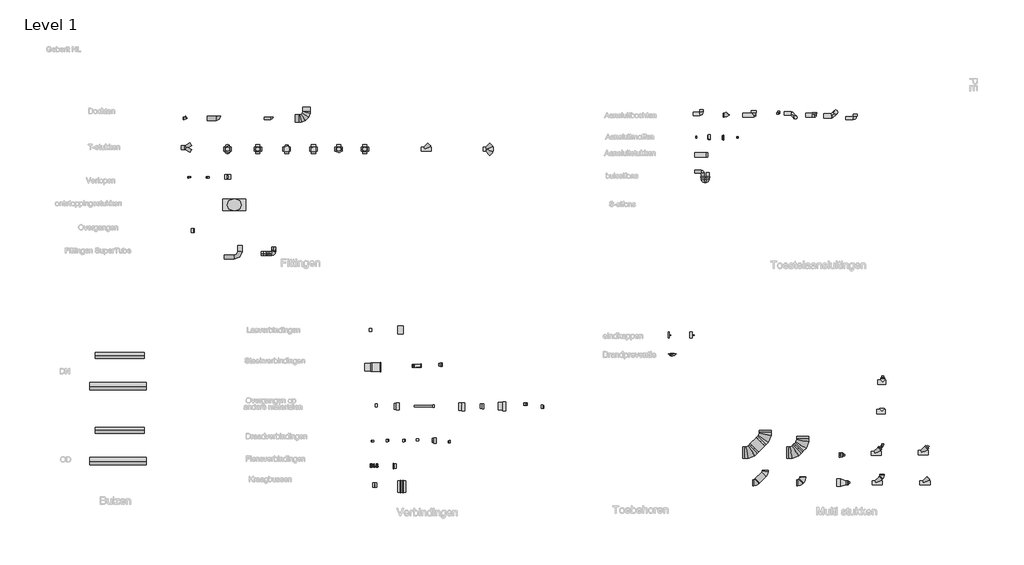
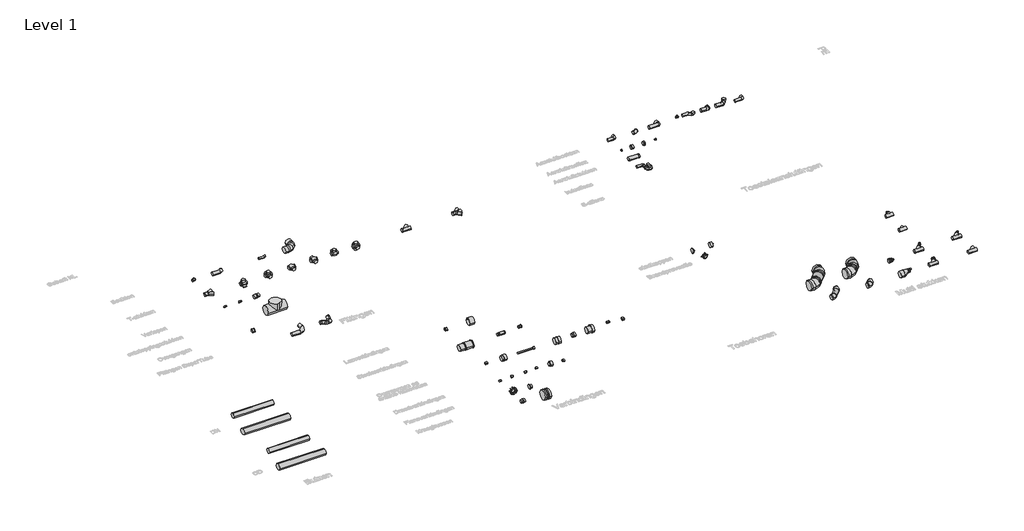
# One storey, part 1 of 9: 88 pipe fittings, 6 pipe segments, 1 covering.
"""IFC4 building model written with IfcOpenShell, lengths in millimetres."""

from ifc_helpers import new_model, si_unit, point, frame, frame_2d, origin, place, context, project, spatial, circle_curve, trimmed, segment, composite_curve, outline, extrude, transform, mapped, element, save
from components import covering_f3e6e1b0, pipe_fitting_01506ed9, pipe_fitting_891d161b, pipe_fitting_aa14bf3e, pipe_fitting_cdec6f6e, pipe_fitting_94343e28, pipe_fitting_200c67d1, pipe_fitting_8937aa88, pipe_fitting_72bd3ef1, pipe_fitting_7474d90c, pipe_fitting_4cfa4c72, pipe_fitting_c2f5c8ad, pipe_fitting_3d7ed814, pipe_fitting_5ecb3781, pipe_fitting_8499a61f, pipe_fitting_ef94fdf8, pipe_fitting_06a9d853, pipe_fitting_5e263041, pipe_fitting_2d73b07b, pipe_fitting_837e9a98, pipe_fitting_a494353a, pipe_fitting_ec2da396, pipe_fitting_92d443f0, pipe_fitting_509cdd89, pipe_fitting_5697ba1b, pipe_fitting_2152e1c3, pipe_fitting_bed2c911, pipe_fitting_a08efd00, pipe_fitting_3a0e395e, pipe_fitting_94b47f5e, pipe_fitting_18a78aad, pipe_fitting_8b9b12c6, pipe_fitting_c1c2389f, pipe_fitting_84bfb5ac, pipe_fitting_539533b1, pipe_fitting_511397ee, pipe_fitting_b586c07b, pipe_fitting_5c974b61, pipe_fitting_3ff8aea3, pipe_fitting_5e71ca5e, pipe_fitting_f7247931, pipe_fitting_40b46b3c, pipe_fitting_e77b350f, pipe_fitting_38d1e98c, pipe_fitting_d28d0940, pipe_fitting_21b6d9ae, pipe_fitting_029c0207, pipe_fitting_4753cb8a, pipe_fitting_93f2e5c1, pipe_fitting_f7c1df82, pipe_fitting_514cde16, pipe_fitting_fa588625, pipe_fitting_bb3acb3a, pipe_fitting_9f7682d1, pipe_fitting_7b2d2720, pipe_fitting_122abe25, pipe_fitting_f3f9f784, pipe_fitting_35322ad2, pipe_fitting_e7b06fe6, pipe_fitting_a508771a, pipe_fitting_67a79f44, pipe_fitting_d58c71f0, nested_2992b03f, nested_21fb20ed, nested_cf578549, nested_1662fd97, nested_d7a01211, nested_2d8ea072, nested_098f2a58, nested_b8c35c44, nested_0cd4240f, nested_5c74db91, nested_bcde11aa, nested_0e2d0414, nested_941dfa96, nested_ecac7f44, nested_b3afe5c9, nested_135c0b6a

model = new_model("IFC4")

# Units and contexts
model_context = context("Model", 3, world=origin())
ifc_project = project(units=[si_unit("LENGTHUNIT", "METRE", prefix="MILLI")], contexts=[model_context])

# Site, building, storey
site = spatial("IfcSite", under=ifc_project)
building = spatial("IfcBuilding", under=site)
storey = spatial("IfcBuildingStorey", under=building, Name="Level 1", Elevation=0.0)

# Covering
placement = place(None, origin())
covering_shape = covering_f3e6e1b0(model_context)
element("IfcCovering", 1, ObjectType="NLRS_52_SE_WPB_brandmanchet RS90 Plus EN_PRO_101862_geb : DN40-200 / d40-200 - OD", at=placement, inside=storey, context=model_context, shape_type="MappedRepresentation", body=[
    mapped(covering_shape, transform((13033.1934417, 15218.9413767, 99.896756), x_axis=(0.0, 0.03482583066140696, -0.9993933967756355), y_axis=(1.0, 0.0, 0.0), z_axis=(0.0, -0.9993933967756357, -0.034825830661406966))),
])

# Pipe fittings
pipe_fitting_shape = pipe_fitting_01506ed9(model_context)
element("IfcPipeFitting", 2, ObjectType="NLRS_52_PIF_UN_PE BackFlip bocht_geb : DN100 / ø110", at=placement, inside=storey, context=model_context, shape_type="MappedRepresentation", body=[
    mapped(pipe_fitting_shape, transform((2411.3752995, 17895.2036212, 0.0), x_axis=(1.0, 0.0, 0.0), y_axis=(0.0, 1.0, 0.0), z_axis=(0.0, 0.0, 1.0))),
])
pipe_fitting_2_shape = pipe_fitting_891d161b(model_context)
element("IfcPipeFitting", 3, ObjectType="NLRS_52_PIF_UN_PE bocht 90° met lang been en kleine radius_geb : DN90-100 / ø90-110", at=placement, inside=storey, context=model_context, shape_type="MappedRepresentation", body=[
    mapped(pipe_fitting_2_shape, transform((942.3752995, 21495.5424865, 0.0), x_axis=(1.0, 0.0, 0.0), y_axis=(0.0, 1.0, 0.0), z_axis=(0.0, 0.0, 1.0))),
])
pipe_fitting_3_shape = pipe_fitting_aa14bf3e(model_context)
element("IfcPipeFitting", 4, ObjectType="NLRS_52_PIF_UN_PE BottomTurn bocht_geb : DN100 / ø110", at=placement, inside=storey, context=model_context, shape_type="MappedRepresentation", body=[
    mapped(pipe_fitting_3_shape, transform((1511.3752995, 17795.2036212, 0.0), x_axis=(1.0, 0.0, 0.0), y_axis=(0.0, 1.0, 0.0), z_axis=(0.0, 0.0, 1.0))),
])
pipe_fitting_4_shape = pipe_fitting_cdec6f6e(model_context)
element("IfcPipeFitting", 5, ObjectType="NLRS_52_PIF_UN_PE broek T-stuk 2 x 30°_geb : DN40-100 Ø40-110", at=placement, inside=storey, context=model_context, shape_type="MappedRepresentation", body=[
    mapped(pipe_fitting_4_shape, transform((42.047866, 20720.9447432, 0.0), x_axis=(1.0, 0.0, 0.0), y_axis=(0.0, 1.0, 0.0), z_axis=(0.0, 0.0, 1.0))),
])
pipe_fitting_5_shape = pipe_fitting_94343e28(model_context)
element("IfcPipeFitting", 6, ObjectType="NLRS_52_PIF_UN_PE kogel T-stuk 88,5° drievoudig, aansluitingen 135° sprong_geb : DN60-125 / ø63-125", at=placement, inside=storey, context=model_context, shape_type="MappedRepresentation", body=[
    mapped(pipe_fitting_5_shape, transform((1179.5557018, 20673.2055651, 0.0), x_axis=(1.0, 0.0, 0.0), y_axis=(0.0, 1.0, 0.0), z_axis=(0.0, 0.0, 1.0))),
])
pipe_fitting_6_shape = pipe_fitting_200c67d1(model_context)
element("IfcPipeFitting", 7, ObjectType="NLRS_52_PIF_UN_PE kogel T-stuk 88,5° drievoudig, aansluitingen 90° sprong_geb : DN60-150 / ø63-160", at=placement, inside=storey, context=model_context, shape_type="MappedRepresentation", body=[
    mapped(pipe_fitting_6_shape, transform((1989.8352561, 20673.2055651, 0.0), x_axis=(1.0, 0.0, 0.0), y_axis=(0.0, 1.0, 0.0), z_axis=(0.0, 0.0, 1.0))),
])
pipe_fitting_7_shape = pipe_fitting_8937aa88(model_context)
element("IfcPipeFitting", 8, ObjectType="NLRS_52_PIF_UN_PE kogel T-stuk 88,5° dubbel, aansluitingen 135° sprong_geb : DN60-150 / ø63-160", at=placement, inside=storey, context=model_context, shape_type="MappedRepresentation", body=[
    mapped(pipe_fitting_7_shape, transform((2753.3679131, 20673.2055651, 0.0), x_axis=(1.0, 0.0, 0.0), y_axis=(0.0, 1.0, 0.0), z_axis=(0.0, 0.0, 1.0))),
])
pipe_fitting_8_shape = pipe_fitting_72bd3ef1(model_context)
element("IfcPipeFitting", 9, ObjectType="NLRS_52_PIF_UN_PE kogel T-stuk 88,5° dubbel, aansluitingen 180° sprong_geb : DN60-150 / ø63-160", at=placement, inside=storey, context=model_context, shape_type="MappedRepresentation", body=[
    mapped(pipe_fitting_8_shape, transform((3470.1536726, 20673.2055651, 0.0), x_axis=(1.0, 0.0, 0.0), y_axis=(0.0, 1.0, 0.0), z_axis=(0.0, 0.0, 1.0))),
])
pipe_fitting_9_shape = pipe_fitting_7474d90c(model_context)
element("IfcPipeFitting", 10, ObjectType="NLRS_52_PIF_UN_PE kogel T-stuk 88,5° dubbel, aansluitingen 90° sprong_geb : DN60-150 / ø63-160", at=placement, inside=storey, context=model_context, shape_type="MappedRepresentation", body=[
    mapped(pipe_fitting_9_shape, transform((4140.1925348, 20673.2055651, 0.0), x_axis=(1.0, 0.0, 0.0), y_axis=(0.0, 1.0, 0.0), z_axis=(0.0, 0.0, 1.0))),
])
pipe_fitting_10_shape = pipe_fitting_4cfa4c72(model_context)
element("IfcPipeFitting", 11, ObjectType="NLRS_52_PIF_UN_PE kogel T-stuk 88,5° viervoudig, aansluitingen 90° sprong_geb : DN60-150 / ø63-160", at=placement, inside=storey, context=model_context, shape_type="MappedRepresentation", body=[
    mapped(pipe_fitting_10_shape, transform((4841.3959953, 20673.2055651, 0.0), x_axis=(1.0, 0.0, 0.0), y_axis=(0.0, 1.0, 0.0), z_axis=(0.0, 0.0, 1.0))),
])
pipe_fitting_11_shape = pipe_fitting_c2f5c8ad(model_context)
element("IfcPipeFitting", 12, ObjectType="NLRS_52_PIF_UN_PE tweevoudig T-stuk 45°_geb : DN40-100 / ø40-110", at=placement, inside=storey, context=model_context, shape_type="MappedRepresentation", body=[
    mapped(pipe_fitting_11_shape, transform((8082.5142125, 20673.2055651, 0.0), x_axis=(1.0, 0.0, 0.0), y_axis=(0.0, 1.0, 0.0), z_axis=(0.0, 0.0, 1.0))),
])
pipe_fitting_12_shape = pipe_fitting_3d7ed814(model_context)
element("IfcPipeFitting", 13, ObjectType="NLRS_52_PIF_UN_PE ontstoppingsstuk 90° met ovale service-opening_geb : DN100-300 / ø110-315", at=placement, inside=storey, context=model_context, shape_type="MappedRepresentation", body=[
    mapped(pipe_fitting_12_shape, transform((1359.7334912, 19189.3791747, 0.0), x_axis=(1.0, 0.0, 0.0), y_axis=(0.0, 1.0, 0.0), z_axis=(0.0, 0.0, 1.0))),
])
pipe_fitting_13_shape = pipe_fitting_5ecb3781(model_context)
element("IfcPipeFitting", 14, ObjectType="NLRS_52_PIF_UN_PE overgangsmof_geb : DN90-100 / ø90-110", at=placement, inside=storey, context=model_context, shape_type="MappedRepresentation", body=[
    mapped(pipe_fitting_13_shape, transform((248.7155638, 18508.4327031, 0.0), x_axis=(1.0, 0.0, 0.0), y_axis=(0.0, 1.0, 0.0), z_axis=(0.0, 0.0, 1.0))),
])
pipe_fitting_14_shape = pipe_fitting_8499a61f(model_context)
element("IfcPipeFitting", 15, ObjectType="NLRS_52_PIF_UN_PE elektrolasmof_geb : DN40-150 / ø40-160", at=placement, inside=storey, context=model_context, shape_type="MappedRepresentation", body=[
    mapped(pipe_fitting_14_shape, transform((4990.9103576, 15854.1209089, 0.0), x_axis=(1.0, 0.0, 0.0), y_axis=(0.0, 1.0, 0.0), z_axis=(0.0, 0.0, 1.0))),
])
pipe_fitting_15_shape = pipe_fitting_ef94fdf8(model_context)
element("IfcPipeFitting", 16, ObjectType="NLRS_52_PIF_UN_PE thermomof_geb : DN200-300 / ø200-315", at=placement, inside=storey, context=model_context, shape_type="MappedRepresentation", body=[
    mapped(pipe_fitting_15_shape, transform((5785.6076128, 15854.1209089, 0.0), x_axis=(1.0, 0.0, 0.0), y_axis=(0.0, 1.0, 0.0), z_axis=(0.0, 0.0, 1.0))),
])
pipe_fitting_16_shape = pipe_fitting_06a9d853(model_context)
element("IfcPipeFitting", 17, ObjectType="NLRS_52_PIF_UN_PE steekmof met lippendichting_geb : DN40-150 / ø40-160", at=placement, inside=storey, context=model_context, shape_type="MappedRepresentation", body=[
    mapped(pipe_fitting_16_shape, transform((6856.0340088, 14927.5005981, 0.0), x_axis=(1.0, 0.0, 0.0), y_axis=(0.0, 1.0, 0.0), z_axis=(0.0, 0.0, 1.0))),
])
pipe_fitting_17_shape = pipe_fitting_5e263041(model_context)
element("IfcPipeFitting", 18, ObjectType="NLRS_52_PIF_UN_PE overgang_geb : DN100-150-148 / ø110-160-148", at=placement, inside=storey, context=model_context, shape_type="MappedRepresentation", body=[
    mapped(pipe_fitting_17_shape, transform((5669.5609406, 13820.1875572, 0.0), x_axis=(1.0, 0.0, 0.0), y_axis=(0.0, 1.0, 0.0), z_axis=(0.0, 0.0, 1.0))),
])
pipe_fitting_18_shape = pipe_fitting_2d73b07b(model_context)
element("IfcPipeFitting", 19, ObjectType="NLRS_52_PIF_UN_PE overgang met krimpmof_geb : DN48-300 / ø48-315", at=placement, inside=storey, context=model_context, shape_type="MappedRepresentation", body=[
    mapped(pipe_fitting_18_shape, transform((6422.1859881, 13820.1875572, 0.0), x_axis=(1.0, 0.0, 0.0), y_axis=(0.0, 1.0, 0.0), z_axis=(0.0, 0.0, 1.0))),
])
pipe_fitting_19_shape = pipe_fitting_837e9a98(model_context)
element("IfcPipeFitting", 20, ObjectType="NLRS_52_PIF_UN_PE overgang op gietijzer_geb : DN200-300-326 / ø200-315-326", at=placement, inside=storey, context=model_context, shape_type="MappedRepresentation", body=[
    mapped(pipe_fitting_19_shape, transform((7425.6860515, 13802.2679132, 0.0), x_axis=(1.0, 0.0, 0.0), y_axis=(0.0, 1.0, 0.0), z_axis=(0.0, 0.0, 1.0))),
])
pipe_fitting_20_shape = pipe_fitting_a494353a(model_context)
element("IfcPipeFitting", 21, ObjectType="NLRS_52_PIF_UN_PE overgang op gietijzer, met steunring_geb : DN125-135 / ø125-135", at=placement, inside=storey, context=model_context, shape_type="MappedRepresentation", body=[
    mapped(pipe_fitting_20_shape, transform((7963.2753712, 13820.1875572, 0.0), x_axis=(1.0, 0.0, 0.0), y_axis=(0.0, 1.0, 0.0), z_axis=(0.0, 0.0, 1.0))),
])
pipe_fitting_21_shape = pipe_fitting_ec2da396(model_context)
element("IfcPipeFitting", 22, ObjectType="NLRS_52_PIF_UN_PE overgang op lood_geb : DN50-54 / ø50-54", at=placement, inside=storey, context=model_context, shape_type="MappedRepresentation", body=[
    mapped(pipe_fitting_21_shape, transform((9128.0522305, 13873.9464891, 0.0), x_axis=(1.0, 0.0, 0.0), y_axis=(0.0, 1.0, 0.0), z_axis=(0.0, 0.0, 1.0))),
])
pipe_fitting_22_shape = pipe_fitting_92d443f0(model_context)
element("IfcPipeFitting", 23, ObjectType="NLRS_52_PIF_UN_PE overgangsmanchet op gietijzer, met steunring_geb : DN50-125 / ø50-125", at=placement, inside=storey, context=model_context, shape_type="MappedRepresentation", body=[
    mapped(pipe_fitting_22_shape, transform((9558.1236862, 13802.2679132, 0.0), x_axis=(1.0, 0.0, 0.0), y_axis=(0.0, 1.0, 0.0), z_axis=(0.0, 0.0, 1.0))),
])
pipe_fitting_23_shape = pipe_fitting_509cdd89(model_context)
element("IfcPipeFitting", 24, ObjectType="NLRS_52_PIF_UN_PE overgang met binnendraad_geb : DN40-70-Rp2½\" / ø40-75-Rp2½\"", at=placement, inside=storey, context=model_context, shape_type="MappedRepresentation", body=[
    mapped(pipe_fitting_23_shape, transform((5042.3734009, 12888.3660697, 0.0), x_axis=(1.0, 0.0, 0.0), y_axis=(0.0, 1.0, 0.0), z_axis=(0.0, 0.0, 1.0))),
])
pipe_fitting_24_shape = pipe_fitting_5697ba1b(model_context)
element("IfcPipeFitting", 25, ObjectType="NLRS_52_PIF_UN_PE overgang met binnendraad en klemkoppeling_geb : DN56-Rp2\" / ø56-Rp2\"", at=placement, inside=storey, context=model_context, shape_type="MappedRepresentation", body=[
    mapped(pipe_fitting_24_shape, transform((5454.5252127, 12906.2857137, 0.0), x_axis=(1.0, 0.0, 0.0), y_axis=(0.0, 1.0, 0.0), z_axis=(0.0, 0.0, 1.0))),
])
pipe_fitting_25_shape = pipe_fitting_2152e1c3(model_context)
element("IfcPipeFitting", 26, ObjectType="NLRS_52_PIF_UN_PE overgang met buitendraad en klemkoppeling_geb : DN50-56-R2\" / ø50-56-R2\"", at=placement, inside=storey, context=model_context, shape_type="MappedRepresentation", body=[
    mapped(pipe_fitting_25_shape, transform((5884.5966684, 12906.2857137, 0.0), x_axis=(1.0, 0.0, 0.0), y_axis=(0.0, 1.0, 0.0), z_axis=(0.0, 0.0, 1.0))),
])
pipe_fitting_26_shape = pipe_fitting_bed2c911(model_context)
element("IfcPipeFitting", 27, ObjectType="NLRS_52_PIF_UN_PE overgangsstuk met buitendraad_geb : DN50-70-R2½\" / ø50-75-R2½\"", at=placement, inside=storey, context=model_context, shape_type="MappedRepresentation", body=[
    mapped(pipe_fitting_26_shape, transform((6242.9895482, 12924.2053577, 0.0), x_axis=(1.0, 0.0, 0.0), y_axis=(0.0, 1.0, 0.0), z_axis=(0.0, 0.0, 1.0))),
])
pipe_fitting_27_shape = pipe_fitting_a08efd00(model_context)
element("IfcPipeFitting", 28, ObjectType="NLRS_52_PIF_UN_PE schroefdraadstuk met afsluitkap_geb : DN30-100 / ø32-110", at=placement, inside=storey, context=model_context, shape_type="MappedRepresentation", body=[
    mapped(pipe_fitting_27_shape, transform((6673.0610039, 12906.2857137, 0.0), x_axis=(1.0, 0.0, 0.0), y_axis=(0.0, 1.0, 0.0), z_axis=(0.0, 0.0, 1.0))),
])
pipe_fitting_28_shape = pipe_fitting_3a0e395e(model_context)
element("IfcPipeFitting", 29, ObjectType="NLRS_52_PIF_UN_PE schroefdraadstuk met klemkoppeling_geb : DN30-100 / ø32-110", at=placement, inside=storey, context=model_context, shape_type="MappedRepresentation", body=[
    mapped(pipe_fitting_28_shape, transform((7085.2128157, 12870.4464257, 0.0), x_axis=(1.0, 0.0, 0.0), y_axis=(0.0, 1.0, 0.0), z_axis=(0.0, 0.0, 1.0))),
])
pipe_fitting_29_shape = pipe_fitting_94b47f5e(model_context)
element("IfcPipeFitting", 30, ObjectType="NLRS_52_PIF_UN_PE set flens_geb : DN50-300 / ø50-315", at=placement, inside=storey, context=model_context, shape_type="MappedRepresentation", body=[
    mapped(pipe_fitting_29_shape, transform((5087.1917562, 12218.7765585, 40.5704963), x_axis=(1.0, 0.0, 0.0), y_axis=(0.0, 0.058908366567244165, 0.9982633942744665), z_axis=(0.0, -0.9982633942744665, 0.058908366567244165))),
])
pipe_fitting_30_shape = pipe_fitting_18a78aad(model_context)
element("IfcPipeFitting", 31, ObjectType="NLRS_52_PIF_UN_PE voorlaskraag_geb : DN50-300 / ø50-315", at=placement, inside=storey, context=model_context, shape_type="MappedRepresentation", body=[
    mapped(pipe_fitting_30_shape, transform((5601.0538751, 12222.5407082, 0.0), x_axis=(1.0, 0.0, 0.0), y_axis=(0.0, 1.0, 0.0), z_axis=(0.0, 0.0, 1.0))),
])
pipe_fitting_31_shape = pipe_fitting_8b9b12c6(model_context)
element("IfcPipeFitting", 32, ObjectType="NLRS_52_PIF_UN_PE kraagbus_geb : DN30-100 / ø32-110", at=placement, inside=storey, context=model_context, shape_type="MappedRepresentation", body=[
    mapped(pipe_fitting_31_shape, transform((5102.1369897, 11714.7145927, 0.0), x_axis=(1.0, 0.0, 0.0), y_axis=(0.0, 1.0, 0.0), z_axis=(0.0, 0.0, 1.0))),
])
pipe_fitting_32_shape = pipe_fitting_c1c2389f(model_context)
element("IfcPipeFitting", 33, ObjectType="NLRS_52_PIF_UN_aansluitbocht 90° voor wand-wc_geb : DN90-100 / ø90-110", at=placement, inside=storey, context=model_context, shape_type="MappedRepresentation", body=[
    mapped(pipe_fitting_32_shape, transform((13813.4360401, 21615.4855156, 0.0), x_axis=(1.0, 0.0, 0.0), y_axis=(0.0, 1.0, 0.0), z_axis=(0.0, 0.0, 1.0))),
])
pipe_fitting_33_shape = pipe_fitting_84bfb5ac(model_context)
element("IfcPipeFitting", 34, ObjectType="NLRS_52_PIF_UN_PE aansluitbocht 45° met aansluitsteekmof, voor wand-wc_geb : DN90-100 / ø90-110", at=placement, inside=storey, context=model_context, shape_type="MappedRepresentation", body=[
    mapped(pipe_fitting_33_shape, transform((14471.6089961, 21586.2232082, 0.0), x_axis=(1.0, 0.0, 0.0), y_axis=(0.0, 1.0, 0.0), z_axis=(0.0, 0.0, 1.0))),
])
pipe_fitting_34_shape = pipe_fitting_539533b1(model_context)
element("IfcPipeFitting", 35, ObjectType="NLRS_52_PIF_UN_PE aansluitbocht 88,5° voor staande wc_geb : DN90-100 / ø90-110", at=placement, inside=storey, context=model_context, shape_type="MappedRepresentation", body=[
    mapped(pipe_fitting_34_shape, transform((15206.2696006, 21586.2232082, 0.0), x_axis=(1.0, 0.0, 0.0), y_axis=(0.0, 1.0, 0.0), z_axis=(0.0, 0.0, 1.0))),
])
pipe_fitting_35_shape = pipe_fitting_511397ee(model_context)
element("IfcPipeFitting", 36, ObjectType="NLRS_52_PIF_UN_PE aansluitbocht 90° voor manchet_geb : DN40-56-58 / ø40-56-58", at=placement, inside=storey, context=model_context, shape_type="MappedRepresentation", body=[
    mapped(pipe_fitting_35_shape, transform((15869.8340175, 21633.6206665, 0.0), x_axis=(1.0, 0.0, 0.0), y_axis=(0.0, 1.0, 0.0), z_axis=(0.0, 0.0, 1.0))),
])
pipe_fitting_36_shape = pipe_fitting_b586c07b(model_context)
element("IfcPipeFitting", 37, ObjectType="NLRS_52_PIF_UN_PE aansluitbocht 90° voor wand-wc, links gebogen, met korte voorsprong_geb : DN90-100 / ø90-110", at=placement, inside=storey, context=model_context, shape_type="MappedRepresentation", body=[
    mapped(pipe_fitting_36_shape, transform((16308.1457556, 21624.9530386, 0.0), x_axis=(1.0, 0.0, 0.0), y_axis=(0.0, 1.0, 0.0), z_axis=(0.0, 0.0, 1.0))),
])
pipe_fitting_37_shape = pipe_fitting_5c974b61(model_context)
element("IfcPipeFitting", 38, ObjectType="NLRS_52_PIF_UN_PE aansluitbocht 90° voor wand-wc, met korte voorsprong_geb : DN90-100 / ø90-110", at=placement, inside=storey, context=model_context, shape_type="MappedRepresentation", body=[
    mapped(pipe_fitting_37_shape, transform((16819.4580916, 21578.470099, 0.0), x_axis=(1.0, 0.0, 0.0), y_axis=(0.0, 1.0, 0.0), z_axis=(0.0, 0.0, 1.0))),
])
pipe_fitting_38_shape = pipe_fitting_3ff8aea3(model_context)
element("IfcPipeFitting", 39, ObjectType="NLRS_52_PIF_UN_PE aansluitbocht 90° voor wand-wc, rechts gebogen, met korte voorsprong_geb : DN90-100 / ø90-110", at=placement, inside=storey, context=model_context, shape_type="MappedRepresentation", body=[
    mapped(pipe_fitting_38_shape, transform((17385.0005238, 21562.9757857, 0.0), x_axis=(1.0, 0.0, 0.0), y_axis=(0.0, 1.0, 0.0), z_axis=(0.0, 0.0, 1.0))),
])
pipe_fitting_39_shape = pipe_fitting_5e71ca5e(model_context)
element("IfcPipeFitting", 40, ObjectType="NLRS_52_PIF_UN_PE aansluitmof_geb : DN40-60 / ø40-63", at=placement, inside=storey, context=model_context, shape_type="MappedRepresentation", body=[
    mapped(pipe_fitting_39_shape, transform((13663.333794, 20996.1648535, 0.0), x_axis=(1.0, 0.0, 0.0), y_axis=(0.0, 1.0, 0.0), z_axis=(0.0, 0.0, 1.0))),
])
pipe_fitting_40_shape = pipe_fitting_f7247931(model_context)
element("IfcPipeFitting", 41, ObjectType="NLRS_52_PIF_UN_PE aansluitmof voor staande wc_geb : DN90-100 / ø90-110", at=placement, inside=storey, context=model_context, shape_type="MappedRepresentation", body=[
    mapped(pipe_fitting_40_shape, transform((13992.4523745, 20995.0398316, 0.0), x_axis=(1.0, 0.0, 0.0), y_axis=(0.0, 1.0, 0.0), z_axis=(0.0, 0.0, 1.0))),
])
pipe_fitting_41_shape = pipe_fitting_40b46b3c(model_context)
element("IfcPipeFitting", 42, ObjectType="NLRS_52_PIF_UN_PE aansluitsteekmof met lipafdichting, voor wand-wc_geb : DN90-100 / ø90-110", at=placement, inside=storey, context=model_context, shape_type="MappedRepresentation", body=[
    mapped(pipe_fitting_41_shape, transform((14362.9685599, 20981.5665158, 0.0), x_axis=(1.0, 0.0, 0.0), y_axis=(0.0, 1.0, 0.0), z_axis=(0.0, 0.0, 1.0))),
])
pipe_fitting_42_shape = pipe_fitting_e77b350f(model_context)
element("IfcPipeFitting", 43, ObjectType="NLRS_52_PIF_UN_PE aansluitsteekmof met lippendichting_geb : DN30-32 / ø32-32", at=placement, inside=storey, context=model_context, shape_type="MappedRepresentation", body=[
    mapped(pipe_fitting_42_shape, transform((14753.6947192, 20988.3031737, 0.0), x_axis=(1.0, 0.0, 0.0), y_axis=(0.0, 1.0, 0.0), z_axis=(0.0, 0.0, 1.0))),
])
pipe_fitting_43_shape = pipe_fitting_38d1e98c(model_context)
element("IfcPipeFitting", 44, ObjectType="NLRS_52_PIF_UN_PE aansluitstuk met steekmof, voor wand-wc_geb : DN90-100 / ø90-110", at=placement, inside=storey, context=model_context, shape_type="MappedRepresentation", body=[
    mapped(pipe_fitting_43_shape, transform((13783.615979, 20523.4737774, 0.0), x_axis=(1.0, 0.0, 0.0), y_axis=(0.0, 1.0, 0.0), z_axis=(0.0, 0.0, 1.0))),
])
pipe_fitting_44_shape = pipe_fitting_d28d0940(model_context)
element("IfcPipeFitting", 45, ObjectType="NLRS_52_PIF_UN_PE buissifon_geb : DN60-100 / ø63-110", at=placement, inside=storey, context=model_context, shape_type="MappedRepresentation", body=[
    mapped(pipe_fitting_44_shape, transform((13978.9790586, 20078.8543548, 0.0), x_axis=(1.0, 0.0, 0.0), y_axis=(0.0, 1.0, 0.0), z_axis=(0.0, 0.0, 1.0))),
])
pipe_fitting_45_shape = pipe_fitting_21b6d9ae(model_context)
element("IfcPipeFitting", 46, ObjectType="NLRS_52_PIF_UN_PE dubbele kraagbus_geb : DN200-300 / ø200-315", at=placement, inside=storey, context=model_context, shape_type="MappedRepresentation", body=[
    mapped(pipe_fitting_45_shape, transform((5822.6491079, 11674.8918857, 0.0), x_axis=(1.0, 0.0, 0.0), y_axis=(0.0, 1.0, 0.0), z_axis=(0.0, 0.0, 1.0))),
])
pipe_fitting_46_shape = pipe_fitting_029c0207(model_context)
element("IfcPipeFitting", 47, ObjectType="NLRS_52_PIF_UN_PE eindkap_geb : DN30-200 / ø32-200", at=placement, inside=storey, context=model_context, shape_type="MappedRepresentation", body=[
    mapped(pipe_fitting_46_shape, transform((12928.0639185, 15715.1571669, 0.0), x_axis=(1.0, 0.0, 0.0), y_axis=(0.0, 1.0, 0.0), z_axis=(0.0, 0.0, 1.0))),
])
pipe_fitting_47_shape = pipe_fitting_4753cb8a(model_context)
element("IfcPipeFitting", 48, ObjectType="NLRS_52_PIF_UN_PE eindkap verlengd_geb : DN50-150 / ø50-160", at=placement, inside=storey, context=model_context, shape_type="MappedRepresentation", body=[
    mapped(pipe_fitting_47_shape, transform((13505.0764549, 15715.1571669, 0.0), x_axis=(1.0, 0.0, 0.0), y_axis=(0.0, 1.0, 0.0), z_axis=(0.0, 0.0, 1.0))),
])
pipe_fitting_48_shape = pipe_fitting_93f2e5c1(model_context)
element("IfcPipeFitting", 49, ObjectType="NLRS_52_PIF_UN_PE multi T-stuk_geb : Standleiding - Var. DN/OD", at=placement, inside=storey, context=model_context, shape_type="MappedRepresentation", body=[
    mapped(pipe_fitting_48_shape, transform((18636.6291281, 14460.0063401, 0.0), x_axis=(1.0, 0.0, 0.0), y_axis=(0.0, 1.0, 0.0), z_axis=(0.0, 0.0, 1.0))),
])
pipe_fitting_49_shape = pipe_fitting_f7c1df82(model_context)
element("IfcPipeFitting", 50, ObjectType="NLRS_52_PIF_UN_overgangsklemkoppeling_geb : d48-210 / ø48-210", at=placement, inside=storey, context=model_context, shape_type="MappedRepresentation", body=[
    mapped(pipe_fitting_49_shape, transform((5139.06108, 13837.359056, 0.0), x_axis=(1.0, 0.0, 0.0), y_axis=(0.0, 1.0, 0.0), z_axis=(0.0, 0.0, 1.0))),
])
pipe_fitting_50_shape = pipe_fitting_514cde16(model_context)
element("IfcPipeFitting", 51, ObjectType="NLRS_52_PIF_UN_PE overgang op gres_geb : DN100-300-352 / ø110-315-352", at=placement, inside=storey, context=model_context, shape_type="MappedRepresentation", body=[
    mapped(pipe_fitting_50_shape, transform((8518.7843348, 13820.1875572, 0.0), x_axis=(1.0, 0.0, 0.0), y_axis=(0.0, 1.0, 0.0), z_axis=(0.0, 0.0, 1.0))),
])
pipe_fitting_51_shape = pipe_fitting_fa588625(model_context)
element("IfcPipeFitting", 52, ObjectType="NLRS_52_PIF_UN_PE aansluitbocht 90° voor wc, uittrekbaar_geb : DN90-100 / ø90-110", at=placement, inside=storey, context=model_context, shape_type="MappedRepresentation", body=[
    mapped(pipe_fitting_51_shape, transform((17905.7348548, 21503.1968854, 0.0), x_axis=(1.0, 0.0, 0.0), y_axis=(0.0, 1.0, 0.0), z_axis=(0.0, 0.0, 1.0))),
])
pipe_fitting_52_shape = pipe_fitting_bb3acb3a(model_context)
element("IfcPipeFitting", 53, ObjectType="NLRS_52_PIF_UN_PE multi T-stuk_geb : Liggend - Var. DN/OD", at=placement, inside=storey, context=model_context, shape_type="MappedRepresentation", body=[
    mapped(pipe_fitting_52_shape, transform((18453.5040319, 11776.1648895, 0.0), x_axis=(1.0, 0.0, 0.0), y_axis=(0.0, 1.0, 0.0), z_axis=(0.0, 0.0, 1.0))),
])
element("IfcPipeFitting", 54, ObjectType="NLRS_52_PIF_UN_PE multi T-stuk_geb : Liggend - Var. DN/OD", at=placement, inside=storey, context=model_context, shape_type="MappedRepresentation", body=[
    mapped(pipe_fitting_52_shape, transform((19723.2238595, 11776.1648895, 0.0), x_axis=(1.0, 0.0, 0.0), y_axis=(0.0, 1.0, 0.0), z_axis=(0.0, 0.0, 1.0))),
])
element("IfcPipeFitting", 55, ObjectType="NLRS_52_PIF_UN_PE multi T-stuk_geb : Liggend - Var. DN/OD", at=placement, inside=storey, context=model_context, shape_type="MappedRepresentation", body=[
    mapped(pipe_fitting_52_shape, transform((18426.6184141, 12560.0063401, 0.0), x_axis=(1.0, 0.0, 0.0), y_axis=(0.0, 1.0, 0.0), z_axis=(0.0, 0.0, 1.0))),
])
element("IfcPipeFitting", 56, ObjectType="NLRS_52_PIF_UN_PE multi T-stuk_geb : Liggend - Var. DN/OD", at=placement, inside=storey, context=model_context, shape_type="MappedRepresentation", body=[
    mapped(pipe_fitting_52_shape, transform((19675.2434363, 12581.651482, 0.0), x_axis=(1.0, 0.0, 0.0), y_axis=(0.0, 1.0, 0.0), z_axis=(0.0, 0.0, 1.0))),
])
element("IfcPipeFitting", 57, ObjectType="NLRS_52_PIF_UN_PE multi T-stuk_geb : Standleiding - Var. DN/OD", at=placement, inside=storey, context=model_context, shape_type="MappedRepresentation", body=[
    mapped(pipe_fitting_48_shape, transform((18619.6741255, 13676.1648895, 0.0), x_axis=(1.0, 0.0, 0.0), y_axis=(0.0, 1.0, 0.0), z_axis=(0.0, 0.0, 1.0))),
])
pipe_fitting_53_shape = pipe_fitting_9f7682d1(model_context)
element("IfcPipeFitting", 58, ObjectType="NLRS_52_PIF_UN_PE bocht met lang been_PRO_101544_geb : DN30-150 / ø32-160 - OD", at=placement, inside=storey, context=model_context, shape_type="MappedRepresentation", body=[
    mapped(pipe_fitting_53_shape, transform((2365.0014248, 21495.5424865, 0.0), x_axis=(1.0, 0.0, 0.0), y_axis=(0.0, 1.0, 0.0), z_axis=(0.0, 0.0, 1.0))),
])
pipe_fitting_54_shape = pipe_fitting_7b2d2720(model_context)
element("IfcPipeFitting", 59, ObjectType="NLRS_52_PIF_UN_PE segmentbocht_PRO_101555_geb : DN200-300 / ø200-315 - OD", at=placement, inside=storey, context=model_context, shape_type="MappedRepresentation", body=[
    mapped(pipe_fitting_54_shape, transform((3285.0014248, 21495.5424865, 0.0), x_axis=(1.0, 0.0, 0.0), y_axis=(0.0, 1.0, 0.0), z_axis=(0.0, 0.0, 1.0))),
])
pipe_fitting_55_shape = pipe_fitting_122abe25(model_context)
element("IfcPipeFitting", 60, ObjectType="NLRS_52_PIF_UN_PE verloop centrisch, kort_PRO_101573_geb : DN40-150 / ø40-160 - OD", at=placement, inside=storey, context=model_context, shape_type="MappedRepresentation", body=[
    mapped(pipe_fitting_55_shape, transform((157.7673299, 19929.4892595, 0.0), x_axis=(1.0, 0.0, 0.0), y_axis=(0.0, 1.0, 0.0), z_axis=(0.0, 0.0, 1.0))),
])
pipe_fitting_56_shape = pipe_fitting_f3f9f784(model_context)
element("IfcPipeFitting", 61, ObjectType="NLRS_52_PIF_UN_PE expansiemof_PRO_101616_geb : DN200-300 / ø200-315 - OD", at=placement, inside=storey, context=model_context, shape_type="MappedRepresentation", body=[
    mapped(pipe_fitting_56_shape, transform((4993.38791, 14861.2830619, 0.0), x_axis=(1.0, 0.0, 0.0), y_axis=(0.0, 1.0, 0.0), z_axis=(0.0, 0.0, 1.0))),
])
pipe_fitting_57_shape = pipe_fitting_35322ad2(model_context)
element("IfcPipeFitting", 62, ObjectType="NLRS_52_PIF_UN_PE verloop excentrisch, kort_PRO_101571_geb : DN40-150 / ø40-160 - OD", at=placement, inside=storey, context=model_context, shape_type="MappedRepresentation", body=[
    mapped(pipe_fitting_57_shape, transform((645.1137497, 19925.5615863, 0.0), x_axis=(1.0, 0.0, 0.0), y_axis=(0.0, 1.0, 0.0), z_axis=(0.0, 0.0, 1.0))),
])
pipe_fitting_58_shape = pipe_fitting_e7b06fe6(model_context)
element("IfcPipeFitting", 63, ObjectType="NLRS_52_PIF_UN_PE verloop excentrisch, lang_PRO_101572_geb : DN100-300 / ø110-315 - OD", at=placement, inside=storey, context=model_context, shape_type="MappedRepresentation", body=[
    mapped(pipe_fitting_58_shape, transform((1183.204975, 19937.3446058, 0.0), x_axis=(1.0, 0.0, 0.0), y_axis=(0.0, 1.0, 0.0), z_axis=(0.0, 0.0, 1.0))),
])
pipe_fitting_59_shape = pipe_fitting_a508771a(model_context)
element("IfcPipeFitting", 64, ObjectType="NLRS_52_PIF_UN_PE bocht_PRO_101543_geb : DN40-150 / ø40-160 - OD", at=placement, inside=storey, context=model_context, shape_type="MappedRepresentation", body=[
    mapped(pipe_fitting_59_shape, transform((45.0014248, 21495.5424865, 0.0), x_axis=(1.0, 0.0, 0.0), y_axis=(0.0, 1.0, 0.0), z_axis=(0.0, 0.0, 1.0))),
])
pipe_fitting_60_shape = pipe_fitting_67a79f44(model_context)
element("IfcPipeFitting", 65, ObjectType="NLRS_52_PIF_UN_PE expansiemof met dubbele rand_PRO_103905_geb : DN30-150 / ø32-160 - OD", at=placement, inside=storey, context=model_context, shape_type="MappedRepresentation", body=[
    mapped(pipe_fitting_60_shape, transform((6224.3939272, 14897.6360243, 0.0), x_axis=(1.0, 0.0, 0.0), y_axis=(0.0, 1.0, 0.0), z_axis=(0.0, 0.0, 1.0))),
])
pipe_fitting_61_shape = pipe_fitting_d58c71f0(model_context)
element("IfcPipeFitting", 66, ObjectType="NLRS_52_PFI_UN_PE T-stuk 45°_PRO_101557_geb : DN40-300 / ø40-315 - OD", at=placement, inside=storey, context=model_context, shape_type="MappedRepresentation", body=[
    mapped(pipe_fitting_61_shape, transform((6431.3752995, 20675.2036212, 0.0), x_axis=(1.0, 0.0, 0.0), y_axis=(0.0, 1.0, 0.0), z_axis=(0.0, 0.0, 1.0))),
])
nested_shape = nested_2992b03f(model_context)
element("IfcPipeFitting", 67, ObjectType="NLRS_52_PIF_UN_PE T-stuk 88,5°_SH_geb : (nested)", at=placement, inside=storey, context=model_context, shape_type="MappedRepresentation", body=[
    mapped(nested_shape, transform((18619.6741255, 13676.1648895, 0.0), x_axis=(1.0, 0.0, 0.0), y_axis=(0.0, 1.0, 0.0), z_axis=(0.0, 0.0, 1.0))),
])
element("IfcPipeFitting", 68, ObjectType="NLRS_52_PIF_UN_PE T-stuk 88,5°_SH_geb : (nested)", at=placement, inside=storey, context=model_context, shape_type="MappedRepresentation", body=[
    mapped(nested_shape, transform((18636.6291281, 14460.0063401, 0.0), x_axis=(1.0, 0.0, 0.0), y_axis=(0.0, 1.0, 0.0), z_axis=(0.0, 0.0, 1.0))),
])
nested_2_shape = nested_21fb20ed(model_context)
element("IfcPipeFitting", 69, ObjectType="NLRS_52_PIF_UN_PE T-stuk 45°_SH_geb : (nested)", at=placement, inside=storey, context=model_context, shape_type="MappedRepresentation", body=[
    mapped(nested_2_shape, transform((18453.5040319, 11776.1648895, 0.0), x_axis=(1.0, 0.0, 0.0), y_axis=(0.0, 1.0, 0.0), z_axis=(0.0, 0.0, 1.0))),
])
element("IfcPipeFitting", 70, ObjectType="NLRS_52_PIF_UN_PE T-stuk 45°_SH_geb : (nested)", at=placement, inside=storey, context=model_context, shape_type="MappedRepresentation", body=[
    mapped(nested_2_shape, transform((19723.2238595, 11776.1648895, 0.0), x_axis=(1.0, 0.0, 0.0), y_axis=(0.0, 1.0, 0.0), z_axis=(0.0, 0.0, 1.0))),
])
element("IfcPipeFitting", 71, ObjectType="NLRS_52_PIF_UN_PE T-stuk 45°_SH_geb : (nested)", at=placement, inside=storey, context=model_context, shape_type="MappedRepresentation", body=[
    mapped(nested_2_shape, transform((18426.6184141, 12560.0063401, 0.0), x_axis=(1.0, 0.0, 0.0), y_axis=(0.0, 1.0, 0.0), z_axis=(0.0, 0.0, 1.0))),
])
element("IfcPipeFitting", 72, ObjectType="NLRS_52_PIF_UN_PE T-stuk 45°_SH_geb : (nested)", at=placement, inside=storey, context=model_context, shape_type="MappedRepresentation", body=[
    mapped(nested_2_shape, transform((19675.2434363, 12581.651482, 0.0), x_axis=(1.0, 0.0, 0.0), y_axis=(0.0, 1.0, 0.0), z_axis=(0.0, 0.0, 1.0))),
])
nested_3_shape = nested_cf578549(model_context)
element("IfcPipeFitting", 73, ObjectType="NLRS_52_PIF_UN_PE segmentbocht_SH_geb : (nested)", at=placement, inside=storey, context=model_context, shape_type="MappedRepresentation", body=[
    mapped(nested_3_shape, transform((15094.1822986, 12581.651482, 0.0), x_axis=(1.0, 0.0, 0.0), y_axis=(0.0, 1.0, 0.0), z_axis=(0.0, 0.0, 1.0))),
])
element("IfcPipeFitting", 74, ObjectType="NLRS_52_PIF_UN_PE segmentbocht_SH_geb : (nested)", at=placement, inside=storey, context=model_context, shape_type="MappedRepresentation", body=[
    mapped(nested_3_shape, transform((16263.8879261, 12581.651482, 0.0), x_axis=(1.0, 0.0, 0.0), y_axis=(0.0, 1.0, 0.0), z_axis=(0.0, 0.0, 1.0))),
])
nested_4_shape = nested_1662fd97(model_context)
element("IfcPipeFitting", 75, ObjectType="NLRS_52_PIF_UN_PE segmentbocht_SH_geb : (nested)", at=placement, inside=storey, context=model_context, shape_type="MappedRepresentation", body=[
    mapped(nested_4_shape, transform((15511.3752995, 12998.8444829, 0.0), x_axis=(0.0, -1.0, 0.0), y_axis=(1.0, 0.0, 0.0), z_axis=(0.0, 0.0, 1.0))),
])
element("IfcPipeFitting", 76, ObjectType="NLRS_52_PIF_UN_PE segmentbocht_SH_geb : (nested)", at=placement, inside=storey, context=model_context, shape_type="MappedRepresentation", body=[
    mapped(nested_4_shape, transform((16511.3752995, 12829.1388554, 0.0), x_axis=(0.0, -1.0, 0.0), y_axis=(1.0, 0.0, 0.0), z_axis=(0.0, 0.0, 1.0))),
])
nested_5_shape = nested_d7a01211(model_context)
element("IfcPipeFitting", 77, ObjectType="NLRS_52_PIF_UN_PE bocht_SH_geb : (nested)", at=placement, inside=storey, context=model_context, shape_type="MappedRepresentation", body=[
    mapped(nested_5_shape, transform((15246.9173633, 11776.1648895, 0.0), x_axis=(1.0, 0.0, 0.0), y_axis=(0.0, 1.0, 0.0), z_axis=(0.0, 0.0, 1.0))),
])
element("IfcPipeFitting", 78, ObjectType="NLRS_52_PIF_UN_PE bocht_SH_geb : (nested)", at=placement, inside=storey, context=model_context, shape_type="MappedRepresentation", body=[
    mapped(nested_5_shape, transform((16418.7443112, 11776.1648895, 0.0), x_axis=(1.0, 0.0, 0.0), y_axis=(0.0, 1.0, 0.0), z_axis=(0.0, 0.0, 1.0))),
])
nested_6_shape = nested_2d8ea072(model_context)
element("IfcPipeFitting", 79, ObjectType="NLRS_52_PIF_UN_PE bocht_SH_geb : (nested)", at=placement, inside=storey, context=model_context, shape_type="MappedRepresentation", body=[
    mapped(nested_6_shape, transform((15511.3752995, 12040.6228257, 0.0), x_axis=(0.0, -1.0, 0.0), y_axis=(1.0, 0.0, 0.0), z_axis=(0.0, 0.0, 1.0))),
])
element("IfcPipeFitting", 80, ObjectType="NLRS_52_PIF_UN_PE bocht_SH_geb : (nested)", at=placement, inside=storey, context=model_context, shape_type="MappedRepresentation", body=[
    mapped(nested_6_shape, transform((16511.3752995, 11868.7958778, 0.0), x_axis=(0.0, -1.0, 0.0), y_axis=(1.0, 0.0, 0.0), z_axis=(0.0, 0.0, 1.0))),
])
nested_7_shape = nested_098f2a58(model_context)
element("IfcPipeFitting", 81, ObjectType="NLRS_52_PIF_UN_PE bocht_SH_geb : (nested)", at=placement, inside=storey, context=model_context, shape_type="MappedRepresentation", body=[
    mapped(nested_7_shape, transform((18619.6741255, 11942.3349831, 0.0), x_axis=(0.7071067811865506, 0.707106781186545, 0.0), y_axis=(-0.707106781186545, 0.7071067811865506, 0.0), z_axis=(0.0, 0.0, 1.0))),
])
nested_8_shape = nested_b8c35c44(model_context)
element("IfcPipeFitting", 82, ObjectType="NLRS_52_PIF_UN_PE bocht_SH_geb : (nested)", at=placement, inside=storey, context=model_context, shape_type="MappedRepresentation", body=[
    mapped(nested_8_shape, transform((18636.6291281, 12770.0170541, 29.0), x_axis=(0.7071067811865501, 0.707106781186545, 0.0), y_axis=(-0.707106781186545, 0.7071067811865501, 0.0), z_axis=(0.0, 0.0, 1.0))),
])
nested_9_shape = nested_0cd4240f(model_context)
element("IfcPipeFitting", 83, ObjectType="NLRS_52_PIF_UN_PE verloop excentrisch, lang_SH_geb : (nested)", at=placement, inside=storey, context=model_context, shape_type="MappedRepresentation", body=[
    mapped(nested_9_shape, transform((17590.3752995, 11776.1648895, 0.0), x_axis=(1.0000000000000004, 0.0, 0.0), y_axis=(0.0, 1.0000000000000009, 0.0), z_axis=(0.0, 0.0, 1.0000000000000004))),
])
nested_10_shape = nested_5c74db91(model_context)
element("IfcPipeFitting", 84, ObjectType="NLRS_52_PIF_UN_PE verloop excentrisch, kort_SH_geb : (nested)", at=placement, inside=storey, context=model_context, shape_type="MappedRepresentation", body=[
    mapped(nested_10_shape, transform((17725.3752995, 11776.1648895, 43.0), x_axis=(1.0000000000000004, 0.0, 0.0), y_axis=(0.0, 1.0000000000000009, 0.0), z_axis=(0.0, 0.0, 1.0000000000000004))),
])
nested_11_shape = nested_bcde11aa(model_context)
element("IfcPipeFitting", 85, ObjectType="NLRS_52_PIF_UN_PE verloop centrisch, kort_SH_geb : (nested)", at=placement, inside=storey, context=model_context, shape_type="MappedRepresentation", body=[
    mapped(nested_11_shape, transform((17515.0335012, 12519.151482, 0.0), x_axis=(1.0000000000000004, 0.0, 0.0), y_axis=(0.0, 1.0000000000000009, 0.0), z_axis=(0.0, 0.0, 1.0000000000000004))),
])
nested_12_shape = nested_0e2d0414(model_context)
element("IfcPipeFitting", 86, ObjectType="NLRS_52_PIF_UN_PE verloop centrisch, kort_SH_geb : (nested)", at=placement, inside=storey, context=model_context, shape_type="MappedRepresentation", body=[
    mapped(nested_12_shape, transform((17590.0335012, 12519.151482, 0.0), x_axis=(1.0000000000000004, 0.0, 0.0), y_axis=(0.0, 1.0000000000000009, 0.0), z_axis=(0.0, 0.0, 1.0000000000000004))),
])
nested_13_shape = nested_941dfa96(model_context)
element("IfcPipeFitting", 87, ObjectType="NLRS_52_PIF_UN_PE verloop excentrisch, kort_SH_geb : (nested)", at=placement, inside=storey, context=model_context, shape_type="MappedRepresentation", body=[
    mapped(nested_13_shape, transform((18577.9392653, 12711.3271913, 0.0), x_axis=(0.7071067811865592, 0.7071067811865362, 0.0), y_axis=(-0.7071067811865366, 0.7071067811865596, 0.0), z_axis=(0.0, 0.0, 1.0000000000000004))),
])
element("IfcPipeFitting", 88, ObjectType="NLRS_52_PIF_UN_PE verloop excentrisch, kort_SH_geb : (nested)", at=placement, inside=storey, context=model_context, shape_type="MappedRepresentation", body=[
    mapped(nested_13_shape, transform((19826.5642874, 12732.9723332, 0.0), x_axis=(0.7071067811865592, 0.7071067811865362, 0.0), y_axis=(-0.7071067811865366, 0.7071067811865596, 0.0), z_axis=(0.0, 0.0, 1.0000000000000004))),
])
nested_14_shape = nested_ecac7f44(model_context)
element("IfcPipeFitting", 89, ObjectType="NLRS_52_PIF_UN_PE verloop centrisch, kort_SH_geb : (nested)", at=placement, inside=storey, context=model_context, shape_type="MappedRepresentation", body=[
    mapped(nested_14_shape, transform((18636.6291281, 14585.0063401, 0.0), x_axis=(0.0, 1.0, 0.0), y_axis=(-1.0, 0.0, 0.0), z_axis=(0.0, 0.0, 1.0))),
])

# Pipe segments
element("IfcPipeSegment", 90, ObjectType="NLRS_52_PI_PE buis (DN)_geb", at=placement, inside=storey, context=model_context, shape_type="SweptSolid", body=[
    extrude(outline(composite_curve([segment(trimmed(circle_curve(frame_2d((15174.5510322, 0.0)), 80.0), [point((15094.5510322, 0.0))], [point((15174.5510322, 80.0))], False, "CARTESIAN"), True, "CONTINUOUS"), segment(trimmed(circle_curve(frame_2d((15174.5510322, 0.0)), 80.0), [point((15174.5510322, 80.0))], [point((15254.5510322, 0.0))], False, "CARTESIAN"), True, "CONTINUOUS"), segment(trimmed(circle_curve(frame_2d((15174.5510322, 0.0)), 80.0), [point((15254.5510322, 0.0))], [point((15174.5510322, -80.0))], False, "CARTESIAN"), True, "CONTINUOUS"), segment(trimmed(circle_curve(frame_2d((15174.5510322, 0.0)), 80.0), [point((15174.5510322, -80.0))], [point((15094.5510322, 0.0))], False, "CARTESIAN"), True, "CONTINUOUS")], self_intersect=False)), frame((-2340.0243864, 0.0, 0.0), z_axis=(1.0, 0.0, 0.0), x_axis=(0.0, 1.0, 0.0)), (0.0, 0.0, 1.0), 1300.0),
])
element("IfcPipeSegment", 91, ObjectType="NLRS_52_PI_PE buis (DN)_geb", at=placement, inside=storey, context=model_context, shape_type="SweptSolid", body=[
    extrude(outline(composite_curve([segment(trimmed(circle_curve(frame_2d((14352.2141108, 0.0)), 100.0), [point((14252.2141108, 0.0))], [point((14352.2141108, 100.0))], False, "CARTESIAN"), True, "CONTINUOUS"), segment(trimmed(circle_curve(frame_2d((14352.2141108, 0.0)), 100.0), [point((14352.2141108, 100.0))], [point((14452.2141108, 0.0))], False, "CARTESIAN"), True, "CONTINUOUS"), segment(trimmed(circle_curve(frame_2d((14352.2141108, 0.0)), 100.0), [point((14452.2141108, 0.0))], [point((14352.2141108, -100.0))], False, "CARTESIAN"), True, "CONTINUOUS"), segment(trimmed(circle_curve(frame_2d((14352.2141108, 0.0)), 100.0), [point((14352.2141108, -100.0))], [point((14252.2141108, 0.0))], False, "CARTESIAN"), True, "CONTINUOUS")], self_intersect=False)), frame((-2489.5445089, 0.0, 0.0), z_axis=(1.0, 0.0, 0.0), x_axis=(0.0, 1.0, 0.0)), (0.0, 0.0, 1.0), 1500.0),
])
element("IfcPipeSegment", 92, ObjectType="NLRS_52_PI_PE buis (OD)_geb", at=placement, inside=storey, context=model_context, shape_type="SweptSolid", body=[
    extrude(outline(composite_curve([segment(trimmed(circle_curve(frame_2d((13174.5510322, 0.0)), 80.0), [point((13094.5510322, 0.0))], [point((13174.5510322, 80.0))], False, "CARTESIAN"), True, "CONTINUOUS"), segment(trimmed(circle_curve(frame_2d((13174.5510322, 0.0)), 80.0), [point((13174.5510322, 80.0))], [point((13254.5510322, 0.0))], False, "CARTESIAN"), True, "CONTINUOUS"), segment(trimmed(circle_curve(frame_2d((13174.5510322, 0.0)), 80.0), [point((13254.5510322, 0.0))], [point((13174.5510322, -80.0))], False, "CARTESIAN"), True, "CONTINUOUS"), segment(trimmed(circle_curve(frame_2d((13174.5510322, 0.0)), 80.0), [point((13174.5510322, -80.0))], [point((13094.5510322, 0.0))], False, "CARTESIAN"), True, "CONTINUOUS")], self_intersect=False)), frame((-2340.0243864, 0.0, 0.0), z_axis=(1.0, 0.0, 0.0), x_axis=(0.0, 1.0, 0.0)), (0.0, 0.0, 1.0), 1300.0),
])
element("IfcPipeSegment", 93, ObjectType="NLRS_52_PI_PE buis (OD)_geb", at=placement, inside=storey, context=model_context, shape_type="SweptSolid", body=[
    extrude(outline(composite_curve([segment(trimmed(circle_curve(frame_2d((12352.2141108, 0.0)), 100.0), [point((12252.2141108, 0.0))], [point((12352.2141108, 100.0))], False, "CARTESIAN"), True, "CONTINUOUS"), segment(trimmed(circle_curve(frame_2d((12352.2141108, 0.0)), 100.0), [point((12352.2141108, 100.0))], [point((12452.2141108, 0.0))], False, "CARTESIAN"), True, "CONTINUOUS"), segment(trimmed(circle_curve(frame_2d((12352.2141108, 0.0)), 100.0), [point((12452.2141108, 0.0))], [point((12352.2141108, -100.0))], False, "CARTESIAN"), True, "CONTINUOUS"), segment(trimmed(circle_curve(frame_2d((12352.2141108, 0.0)), 100.0), [point((12352.2141108, -100.0))], [point((12252.2141108, 0.0))], False, "CARTESIAN"), True, "CONTINUOUS")], self_intersect=False)), frame((-2489.5445089, 0.0, 0.0), z_axis=(1.0, 0.0, 0.0), x_axis=(0.0, 1.0, 0.0)), (0.0, 0.0, 1.0), 1500.0),
])
nested_15_shape = nested_b3afe5c9(model_context)
element("IfcPipeSegment", 94, ObjectType="NLRS_52_PIF_UN_PE buis_SH_geb : (nested)", at=placement, inside=storey, context=model_context, shape_type="MappedRepresentation", body=[
    mapped(nested_15_shape, transform((15290.7579838, 11820.0055099, 0.0), x_axis=(0.7071067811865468, 0.7071067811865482, 0.0), y_axis=(-0.7071067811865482, 0.7071067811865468, 0.0), z_axis=(0.0, 0.0, 1.0))),
])
nested_16_shape = nested_135c0b6a(model_context)
element("IfcPipeSegment", 95, ObjectType="NLRS_52_PIF_UN_PE buis_SH_geb : (nested)", at=placement, inside=storey, context=model_context, shape_type="MappedRepresentation", body=[
    mapped(nested_16_shape, transform((15214.3904514, 12701.8596348, 0.0), x_axis=(0.7071067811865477, 0.7071067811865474, 0.0), y_axis=(-0.7071067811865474, 0.7071067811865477, 0.0), z_axis=(0.0, 0.0, 1.0))),
])

save(model, "model.ifc")
